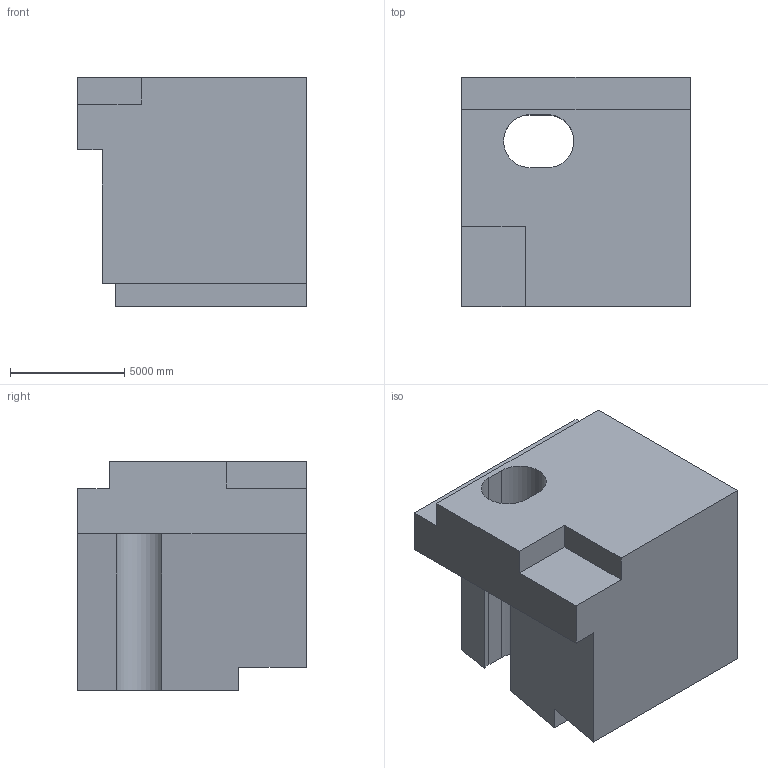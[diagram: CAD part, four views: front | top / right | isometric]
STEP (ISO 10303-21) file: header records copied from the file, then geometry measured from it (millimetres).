
FILE_DESCRIPTION (( 'STEP AP203' ), '1' );
FILE_NAME ('165.STEP', '2022-09-06T15:18:25', ( 'user' ), ( '' ), 'SwSTEP 2.0', 'SolidWorks 2021', '' );
FILE_SCHEMA (( 'CONFIG_CONTROL_DESIGN' ));
Length unit declared in the file: centimetre
Products named in the file (1): 165
Bounding box: 10000 x 10000 x 10000 mm (x, y, z)
Volume: 720840463810.7 mm3; surface area: 673906986 mm2
Topology: 1 solids, 1 shells, 34 faces, 90 edges, 60 vertices
Faces by surface type: plane 27, cylinder 7
Entity records: 1131 total; most frequent: CARTESIAN_POINT 185, ORIENTED_EDGE 180, DIRECTION 176, EDGE_CURVE 90, LINE 74, VECTOR 74, VERTEX_POINT 60, AXIS2_PLACEMENT_3D 51
